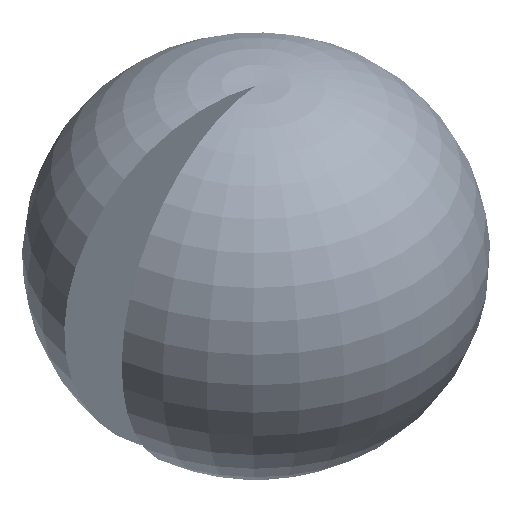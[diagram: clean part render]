
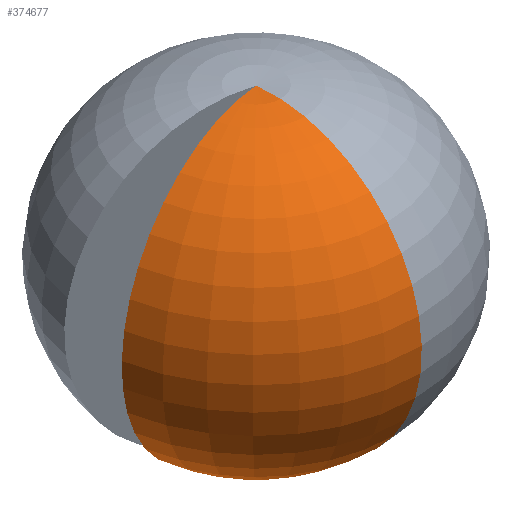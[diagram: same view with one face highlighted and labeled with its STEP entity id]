
A CAD part, isometric view. The second image highlights one B-rep face of the part: STEP entity #374677.
In plain terms, the highlighted toroidal (fillet/blend) face has major radius 280 mm and minor radius 2421.05 mm.
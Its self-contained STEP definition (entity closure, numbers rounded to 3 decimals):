
#8352 = CARTESIAN_POINT ( 'NONE',  ( 0., -1668.66, -1313.211 ) ) ;
#30321 = VERTEX_POINT ( 'NONE', #8352 ) ;
#30729 = CARTESIAN_POINT ( 'NONE',  ( 0., 0., 3074.808 ) ) ;
#51808 = ORIENTED_EDGE ( 'NONE', *, *, #376248, .F. ) ;
#72413 = CIRCLE ( 'NONE', #186331, 2421.054 ) ;
#77848 = CIRCLE ( 'NONE', #326790, 2421.054 ) ;
#91982 = CARTESIAN_POINT ( 'NONE',  ( -1643.309, -289.76, -1313.211 ) ) ;
#103583 = VERTEX_POINT ( 'NONE', #91982 ) ;
#129710 = DIRECTION ( 'NONE',  ( 0., 1., 0. ) ) ;
#147007 = DIRECTION ( 'NONE',  ( 0., 1., 0. ) ) ;
#176807 = AXIS2_PLACEMENT_3D ( 'NONE', #184874, #318460, #147007 ) ;
#182680 = FACE_OUTER_BOUND ( 'NONE', #193777, .T. ) ;
#184874 = CARTESIAN_POINT ( 'NONE',  ( 0., 0., 670. ) ) ;
#186331 = AXIS2_PLACEMENT_3D ( 'NONE', #280845, #349795, #381030 ) ;
#190802 = TOROIDAL_SURFACE ( 'NONE', #176807, 280., 2421.054 ) ;
#193777 = EDGE_LOOP ( 'NONE', ( #51808, #314104, #339565 ) ) ;
#197353 = CIRCLE ( 'NONE', #431882, 1668.66 ) ;
#216477 = EDGE_CURVE ( 'NONE', #30321, #103583, #197353, .T. ) ;
#245047 = EDGE_CURVE ( 'NONE', #103583, #325915, #72413, .T. ) ;
#280845 = CARTESIAN_POINT ( 'NONE',  ( -275.746, -48.621, 670. ) ) ;
#296230 = DIRECTION ( 'NONE',  ( 0., 1., 0. ) ) ;
#296807 = DIRECTION ( 'NONE',  ( 0., 0., -1. ) ) ;
#314104 = ORIENTED_EDGE ( 'NONE', *, *, #245047, .F. ) ;
#318460 = DIRECTION ( 'NONE',  ( 0., 0., -1. ) ) ;
#325915 = VERTEX_POINT ( 'NONE', #30729 ) ;
#326790 = AXIS2_PLACEMENT_3D ( 'NONE', #363044, #329585, #296230 ) ;
#329585 = DIRECTION ( 'NONE',  ( 1., 0., 0. ) ) ;
#339565 = ORIENTED_EDGE ( 'NONE', *, *, #216477, .F. ) ;
#349795 = DIRECTION ( 'NONE',  ( -0.174, 0.985, 0. ) ) ;
#363044 = CARTESIAN_POINT ( 'NONE',  ( 0., -280., 670. ) ) ;
#374677 = ADVANCED_FACE ( 'NONE', ( #182680 ), #190802, .T. ) ;
#376248 = EDGE_CURVE ( 'NONE', #325915, #30321, #77848, .T. ) ;
#381030 = DIRECTION ( 'NONE',  ( -0.985, -0.174, 0. ) ) ;
#430411 = CARTESIAN_POINT ( 'NONE',  ( 0., 0., -1313.211 ) ) ;
#431882 = AXIS2_PLACEMENT_3D ( 'NONE', #430411, #296807, #129710 ) ;
